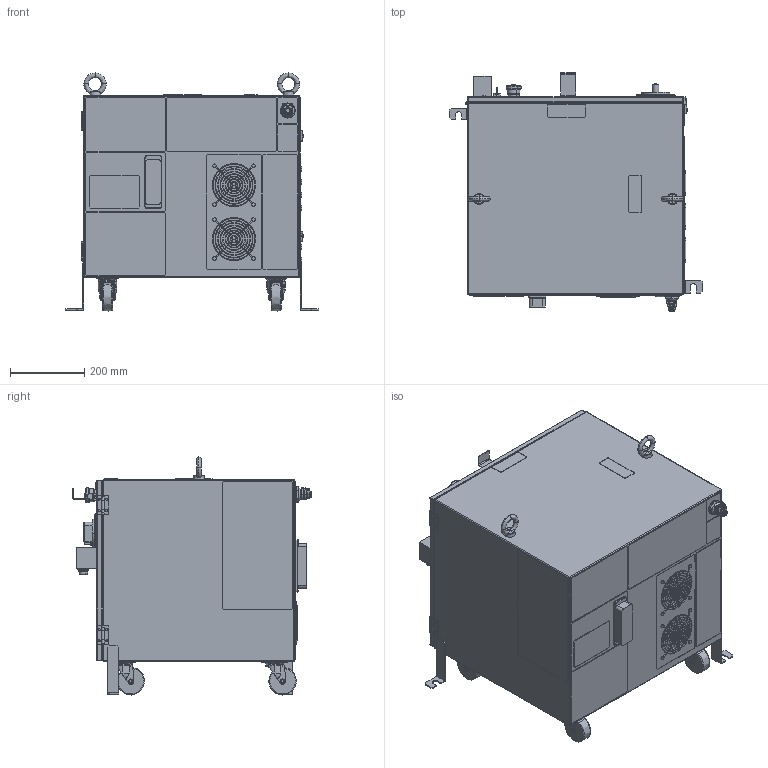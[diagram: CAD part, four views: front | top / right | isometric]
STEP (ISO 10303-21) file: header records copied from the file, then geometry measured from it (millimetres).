
FILE_DESCRIPTION(('CATIA V5 STEP Exchange'),'2;1');
FILE_NAME('C:\Users\rbt00138\Desktop\Controller\FD20\FD20_AS\FD20-x01_2022519\FD20-x01_TR_caster.stp','2022-05-19T01:38:37+00:00',('none'),('none'),'CATIA Version 5-6 Release 2016 SP3','CATIA V5 STEP AP203','none');
FILE_SCHEMA(('CONFIG_CONTROL_DESIGN'));
Products named in the file (1): FD20-x01_TR_caster
Bounding box: 681.2 x 642 x 639.89 mm (x, y, z)
Volume: 153020564.5 mm3; surface area: 2186172.8 mm2
Topology: 51 solids, 51 shells, 2255 faces, 6065 edges, 3897 vertices
Faces by surface type: plane 1139, cylinder 749, revolution 345, bspline 22
Entity records: 83807 total; most frequent: CARTESIAN_POINT 30081, ORIENTED_EDGE 11954, DIRECTION 8890, EDGE_CURVE 5977, VERTEX_POINT 3897, AXIS2_PLACEMENT_3D 3517, VECTOR 3141, LINE 3141
